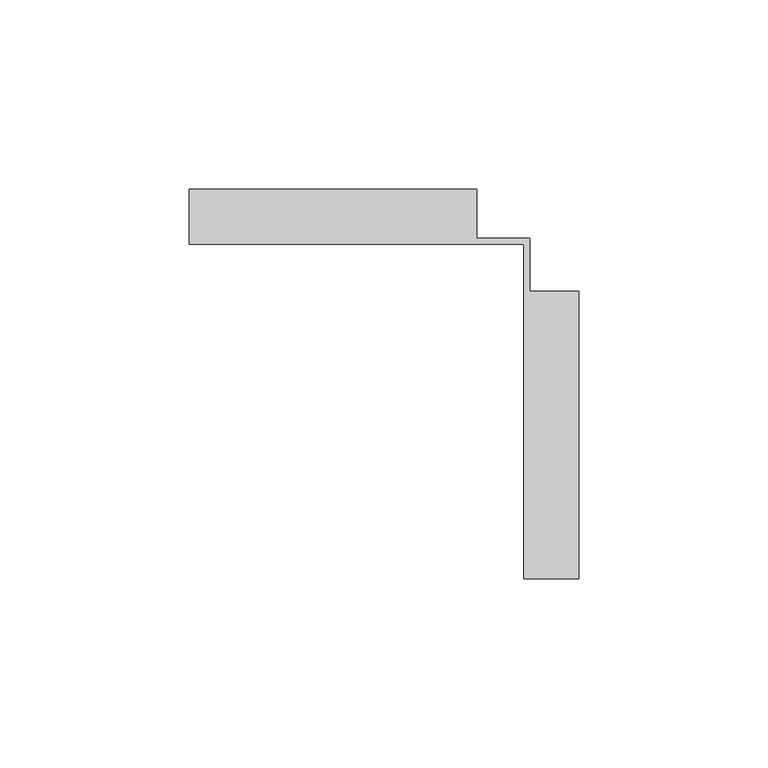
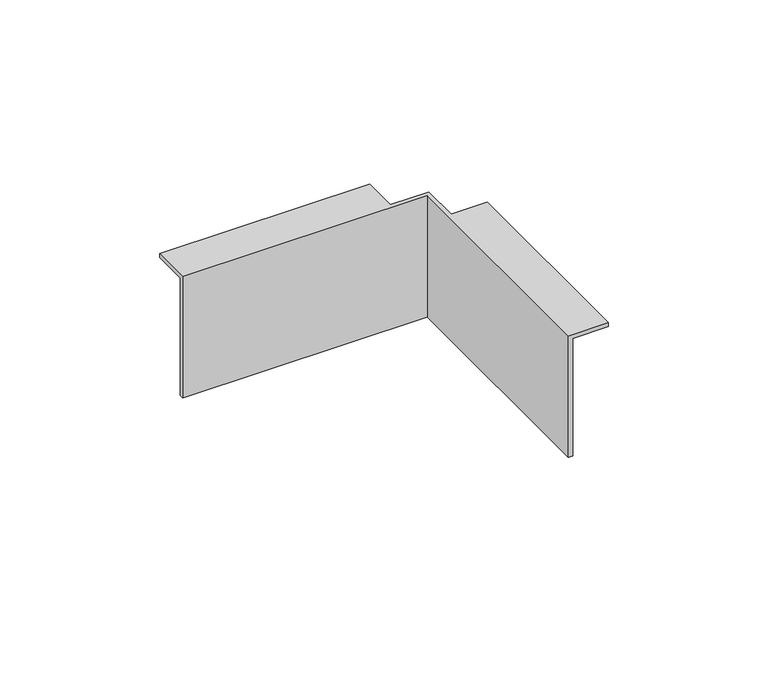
"""IFC4 building model written with IfcOpenShell, lengths in millimetres: cable carrier fitting geometry, BAKS_LD_CONN_Angle coupler bendable_LKU : LKUP_H45."""

from ifc_helpers import new_model, si_unit, origin, place, context, project, spatial, faceted_brep, source, transform, mapped, element, save


def cable_carrier_fitting_2d894193(model_context):
    return source(origin(), model_context, "Body", "Brep", [
        faceted_brep([(-90.0, 0.0, 45.0), (-90.0, 0.0, 0.0), (-90.0, -1.5, 0.0), (-90.0, -1.5, 46.5), (-90.0, 13.0, 46.5), (-90.0, 13.0, 45.0), (-14.0, 0.0, 45.0), (-14.0, 0.0, 46.5), (0.0, 0.0, 46.5), (0.0, 0.0, 0.0), (0.0, -90.0, 0.0), (-1.5, -90.0, 0.0), (-1.5, -1.5, 0.0), (-1.5, -1.5, 46.5), (-14.0, 13.0, 45.0), (13.0, -90.0, 45.0), (0.0, -90.0, 45.0), (0.0, -14.0, 45.0), (13.0, -14.0, 45.0), (-14.0, 13.0, 46.5), (-1.5, -90.0, 46.5), (13.0, -90.0, 46.5), (13.0, -14.0, 46.5), (0.0, -14.0, 46.5)], [[[0, 1, 2, 3, 4, 5]], [[1, 0, 6, 7, 8, 9]], [[2, 1, 9, 10, 11, 12]], [[3, 2, 12, 13]], [[0, 5, 14, 6]], [[15, 16, 17, 18]], [[5, 4, 19, 14]], [[4, 3, 13, 20, 21, 22, 23, 8, 7, 19]], [[11, 10, 16, 15, 21, 20]], [[9, 8, 23, 17, 16, 10]], [[12, 11, 20, 13]], [[21, 15, 18, 22]], [[17, 23, 22, 18]], [[7, 6, 14, 19]]]),
    ])


if __name__ == "__main__":
    model = new_model("IFC4")
    model_context = context("Model", 3, world=origin())
    ifc_project = project(units=[si_unit("LENGTHUNIT", "METRE", prefix="MILLI")], contexts=[model_context])
    site = spatial("IfcSite", under=ifc_project)
    building = spatial("IfcBuilding", under=site)
    placement = place(None, origin())
    cable_carrier_fitting_shape = cable_carrier_fitting_2d894193(model_context)
    element("IfcCableCarrierFitting", 1, ObjectType="BAKS_LD_CONN_Angle coupler bendable_LKU : LKUP_H45", at=placement, inside=building, context=model_context, shape_type="MappedRepresentation", body=[
        mapped(cable_carrier_fitting_shape, transform((0.0, 0.0, 0.0), x_axis=(1.0, 0.0, 0.0), y_axis=(0.0, 1.0, 0.0), z_axis=(0.0, 0.0, 1.0))),
    ])
    save(model, "model.ifc")
